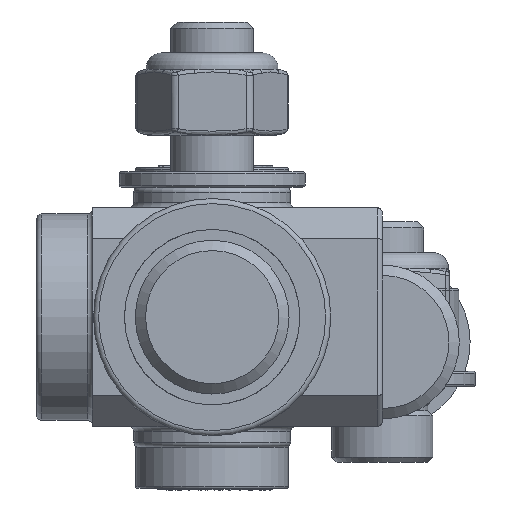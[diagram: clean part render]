
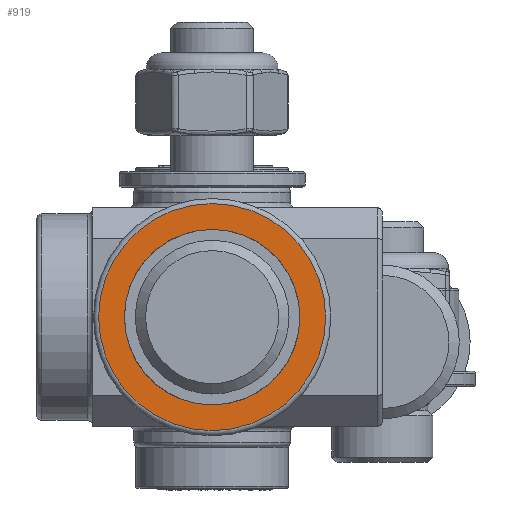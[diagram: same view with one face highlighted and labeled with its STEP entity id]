
A CAD part, left-side view. The second image highlights one B-rep face of the part: STEP entity #919.
In plain terms, the highlighted planar face has unit normal (-1, 0, 0).
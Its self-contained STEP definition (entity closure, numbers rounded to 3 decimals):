
#919 = ADVANCED_FACE( '', ( #2111, #2112 ), #2113, .F. );
#2111 = FACE_BOUND( '', #5094, .T. );
#2112 = FACE_OUTER_BOUND( '', #5095, .T. );
#2113 = PLANE( '', #5096 );
#5094 = EDGE_LOOP( '', ( #9428 ) );
#5095 = EDGE_LOOP( '', ( #9429 ) );
#5096 = AXIS2_PLACEMENT_3D( '', #9430, #9431, #9432 );
#9428 = ORIENTED_EDGE( '', *, *, #12448, .F. );
#9429 = ORIENTED_EDGE( '', *, *, #11920, .T. );
#9430 = CARTESIAN_POINT( '', ( -31.424, 27.5, 2.407 ) );
#9431 = DIRECTION( '', ( 1., 0., 0. ) );
#9432 = DIRECTION( '', ( 0., 0., -1. ) );
#11920 = EDGE_CURVE( '', #13572, #13572, #13573, .T. );
#12448 = EDGE_CURVE( '', #14376, #14376, #14377, .T. );
#13572 = VERTEX_POINT( '', #17076 );
#13573 = CIRCLE( '', #17077, 11. );
#14376 = VERTEX_POINT( '', #20243 );
#14377 = CIRCLE( '', #20244, 8.5 );
#17076 = CARTESIAN_POINT( '', ( -31.424, 16.5, 13.407 ) );
#17077 = AXIS2_PLACEMENT_3D( '', #23002, #23003, #23004 );
#20243 = CARTESIAN_POINT( '', ( -31.424, 16.5, 10.907 ) );
#20244 = AXIS2_PLACEMENT_3D( '', #23494, #23495, #23496 );
#23002 = CARTESIAN_POINT( '', ( -31.424, 16.5, 2.407 ) );
#23003 = DIRECTION( '', ( -1., 0., 0. ) );
#23004 = DIRECTION( '', ( 0., 0., 1. ) );
#23494 = CARTESIAN_POINT( '', ( -31.424, 16.5, 2.407 ) );
#23495 = DIRECTION( '', ( -1., 0., 0. ) );
#23496 = DIRECTION( '', ( 0., 0., 1. ) );
